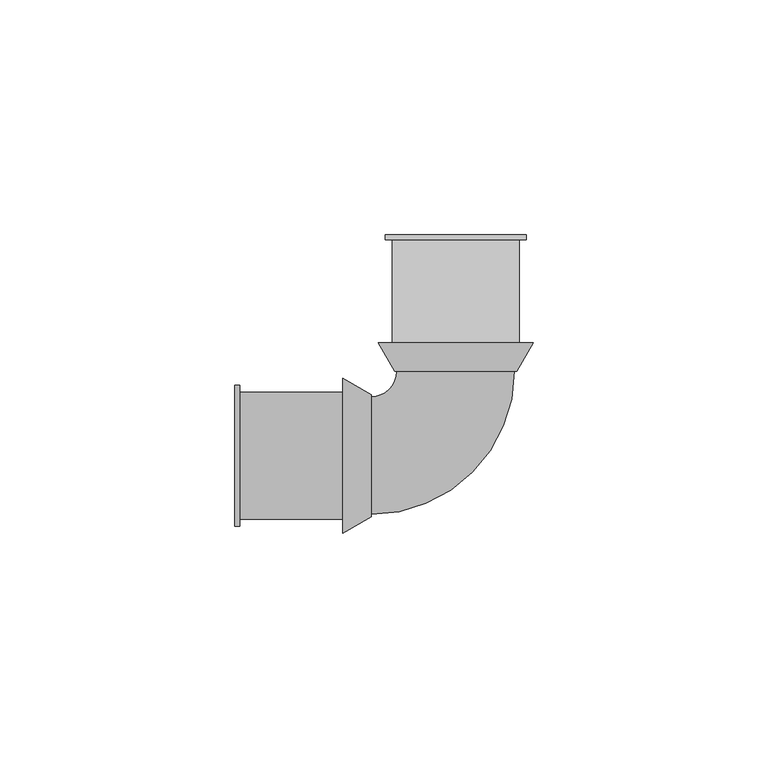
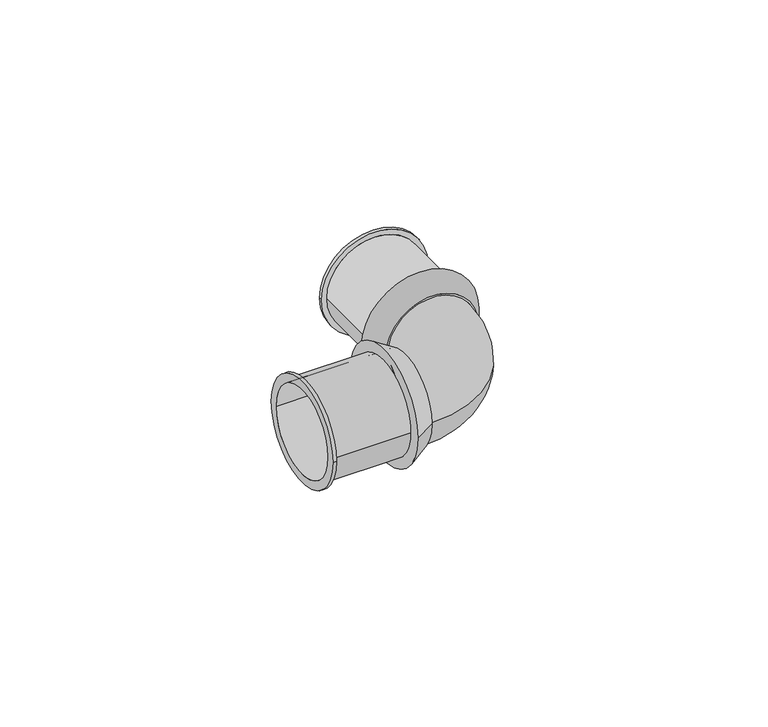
"""IFC4 building model written with IfcOpenShell, lengths in millimetres: pipe fitting geometry, SuperPipe_Elbow_SPressPlus : SuperPipe_Elbow_SPressPlus."""

from ifc_helpers import new_model, si_unit, point, frame, origin, place, context, project, spatial, polyline, circle_curve, ellipse_curve, trimmed, source, transform, mapped, element, save
from ifc_brep_helpers import plane_surface, cylinder_surface, revolved_surface, advanced_brep


def pipe_fitting_fdee5b0f(model_context):
    return source(origin(), model_context, "Body", "AdvancedBrep", [
        advanced_brep(
        [(-18.0, -13.0, 0.0), (-18.0, 13.0, 0.0), (-18.0, 12.5, 0.0), (-18.0, -12.5, 0.0), (-24.0, -16.5, 0.0), (-24.0, 16.5, 0.0), (-24.0, -12.5, 0.0), (-24.0, 12.5, 0.0)],
        [
            (0, 1, circle_curve(frame((-18.0, 0.0, 0.0), z_axis=(1.0, 0.0, 0.0), x_axis=(0.0, -1.0, 0.0)), 13.0)),
            (1, 0, circle_curve(frame((-18.0, 0.0, 0.0), z_axis=(1.0, 0.0, 0.0), x_axis=(0.0, 1.0, 0.0)), 13.0)),
            (2, 3, circle_curve(frame((-18.0, 0.0, 0.0), z_axis=(-1.0, 0.0, 0.0), x_axis=(0.0, 1.0, 0.0)), 12.5)),
            (3, 2, circle_curve(frame((-18.0, 0.0, 0.0), z_axis=(-1.0, 0.0, 0.0), x_axis=(0.0, 1.0, 0.0)), 12.5)),
            (4, 5, circle_curve(frame((-24.0, 0.0, 0.0), z_axis=(-1.0, 0.0, 0.0), x_axis=(0.0, 1.0, 0.0)), 16.5)),
            (5, 4, circle_curve(frame((-24.0, 0.0, 0.0), z_axis=(-1.0, 0.0, 0.0), x_axis=(0.0, -1.0, 0.0)), 16.5)),
            (6, 7, circle_curve(frame((-24.0, 0.0, 0.0), z_axis=(1.0, 0.0, 0.0), x_axis=(0.0, 1.0, 0.0)), 12.5)),
            (7, 6, circle_curve(frame((-24.0, 0.0, 0.0), z_axis=(1.0, 0.0, 0.0), x_axis=(0.0, 1.0, 0.0)), 12.5)),
            (0, 4),
            (5, 1),
            (2, 7),
            (6, 3),
        ],
        [
            plane_surface(frame((-18.0, 0.0, 0.0), z_axis=(1.0, 0.0, 0.0), x_axis=(0.0, 0.0, -1.0))),
            plane_surface(frame((-24.0, 0.0, 0.0), z_axis=(-1.0, 0.0, 0.0), x_axis=(0.0, 0.0, -1.0))),
            revolved_surface(polyline([(-18.0, -13.000000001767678, 0.0), (-24.0, -16.5, 0.0)]), (4.2857143, 0.0, 0.0), (-1.0, 0.0, 0.0)),
            revolved_surface(polyline([(-18.0, 13.000000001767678, 0.0), (-24.0, 16.5, 0.0)]), (4.2857143, 0.0, 0.0), (-1.0, 0.0, 0.0)),
            revolved_surface(polyline([(-18.0, 12.5, 0.0), (-24.0, 12.5, 0.0)]), (-24.0, 0.0, 0.0), (1.0, 0.0, 0.0)),
        ],
        [
            (0, [[1, 2], [3, 4]]),
            (1, [[5, 6], [7, 8]]),
            (2, [[-1, 9, -6, 10]]),
            (3, [[-2, -10, -5, -9]]),
            (4, [[11, -7, 12, -3]]),
            (4, [[-11, -4, -12, -8]]),
        ],
    ),
        advanced_brep(
        [(16.5, 24.0, 0.0), (-16.5, 24.0, 0.0), (12.5, 24.0, 0.0), (-12.5, 24.0, 0.0), (13.0, 18.0, 0.0), (-13.0, 18.0, 0.0), (-12.5, 18.0, 0.0), (12.5, 18.0, 0.0)],
        [
            (0, 1, circle_curve(frame((0.0, 24.0, 0.0), z_axis=(0.0, 1.0, 0.0), x_axis=(1.0, 0.0, 0.0)), 16.5)),
            (1, 0, circle_curve(frame((0.0, 24.0, 0.0), z_axis=(0.0, 1.0, 0.0), x_axis=(-1.0, 0.0, 0.0)), 16.5)),
            (2, 3, circle_curve(frame((0.0, 24.0, 0.0), z_axis=(0.0, -1.0, 0.0), x_axis=(-1.0, 0.0, 0.0)), 12.5)),
            (3, 2, circle_curve(frame((0.0, 24.0, 0.0), z_axis=(0.0, -1.0, 0.0), x_axis=(-1.0, 0.0, 0.0)), 12.5)),
            (4, 5, circle_curve(frame((0.0, 18.0, 0.0), z_axis=(0.0, -1.0, 0.0), x_axis=(-1.0, 0.0, 0.0)), 13.0)),
            (5, 4, circle_curve(frame((0.0, 18.0, 0.0), z_axis=(0.0, -1.0, 0.0), x_axis=(1.0, 0.0, 0.0)), 13.0)),
            (6, 7, circle_curve(frame((0.0, 18.0, 0.0), z_axis=(0.0, 1.0, 0.0), x_axis=(-1.0, 0.0, 0.0)), 12.5)),
            (7, 6, circle_curve(frame((0.0, 18.0, 0.0), z_axis=(0.0, 1.0, 0.0), x_axis=(-1.0, 0.0, 0.0)), 12.5)),
            (0, 4),
            (5, 1),
            (6, 3),
            (2, 7),
        ],
        [
            plane_surface(frame((0.0, 24.0, 0.0), z_axis=(0.0, 1.0, 0.0), x_axis=(0.0, 0.0, -1.0))),
            plane_surface(frame((0.0, 18.0, 0.0), z_axis=(0.0, -1.0, 0.0), x_axis=(0.0, 0.0, -1.0))),
            revolved_surface(polyline([(-13.000000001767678, 18.0, 0.0), (-16.5, 24.0, 0.0)]), (0.0, -4.2857143, 0.0), (0.0, 1.0, 0.0)),
            revolved_surface(polyline([(13.000000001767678, 18.0, 0.0), (16.5, 24.0, 0.0)]), (0.0, -4.2857143, 0.0), (0.0, 1.0, 0.0)),
            revolved_surface(polyline([(-12.5, 18.0, 0.0), (-12.5, 24.0, 0.0)]), (0.0, 18.0, 0.0), (0.0, -1.0, 0.0)),
        ],
        [
            (0, [[1, 2], [3, 4]]),
            (1, [[5, 6], [7, 8]]),
            (2, [[-1, 9, -6, 10]]),
            (3, [[-2, -10, -5, -9]]),
            (4, [[11, -3, 12, -7]]),
            (4, [[-11, -8, -12, -4]]),
        ],
    ),
        advanced_brep(
        [(-47.0, -15.0, 0.0), (-47.0, 15.0, 0.0), (-47.0, -12.5, 0.0), (-47.0, 12.5, 0.0), (-24.0, -13.5, 0.0), (-24.0, 13.5, 0.0), (-24.0, -12.5, 0.0), (-24.0, 12.5, 0.0), (-46.0, 13.5, 0.0), (-46.0, -13.5, 0.0), (-46.0, -15.0, 0.0), (-46.0, 15.0, 0.0)],
        [
            (0, 1, circle_curve(frame((-47.0, 0.0, 0.0), z_axis=(-1.0, 0.0, 0.0), x_axis=(0.0, 1.0, 0.0)), 15.0)),
            (1, 0, circle_curve(frame((-47.0, 0.0, 0.0), z_axis=(-1.0, 0.0, 0.0), x_axis=(0.0, 1.0, 0.0)), 15.0)),
            (2, 3, circle_curve(frame((-47.0, 0.0, 0.0), z_axis=(1.0, 0.0, 0.0), x_axis=(0.0, 1.0, 0.0)), 12.5)),
            (3, 2, circle_curve(frame((-47.0, 0.0, 0.0), z_axis=(1.0, 0.0, 0.0), x_axis=(0.0, 1.0, 0.0)), 12.5)),
            (4, 5, circle_curve(frame((-24.0, 0.0, 0.0), z_axis=(1.0, 0.0, 0.0), x_axis=(0.0, 1.0, 0.0)), 13.5)),
            (5, 4, circle_curve(frame((-24.0, 0.0, 0.0), z_axis=(1.0, 0.0, 0.0), x_axis=(0.0, 1.0, 0.0)), 13.5)),
            (6, 7, circle_curve(frame((-24.0, 0.0, 0.0), z_axis=(-1.0, 0.0, 0.0), x_axis=(0.0, 1.0, 0.0)), 12.5)),
            (7, 6, circle_curve(frame((-24.0, 0.0, 0.0), z_axis=(-1.0, 0.0, 0.0), x_axis=(0.0, 1.0, 0.0)), 12.5)),
            (2, 6),
            (7, 3),
            (5, 8),
            (8, 9, circle_curve(frame((-46.0, 0.0, 0.0), z_axis=(1.0, 0.0, 0.0), x_axis=(0.0, 1.0, 0.0)), 13.5)),
            (9, 4),
            (9, 8, circle_curve(frame((-46.0, 0.0, 0.0), z_axis=(1.0, 0.0, 0.0), x_axis=(0.0, 1.0, 0.0)), 13.5)),
            (10, 11, circle_curve(frame((-46.0, 0.0, 0.0), z_axis=(1.0, 0.0, 0.0), x_axis=(0.0, 1.0, 0.0)), 15.0)),
            (11, 10, circle_curve(frame((-46.0, 0.0, 0.0), z_axis=(1.0, 0.0, 0.0), x_axis=(0.0, 1.0, 0.0)), 15.0)),
            (0, 10),
            (11, 1),
        ],
        [
            plane_surface(frame((-47.0, 0.0, 0.0), z_axis=(-1.0, 0.0, 0.0), x_axis=(0.0, 0.0, 1.0))),
            plane_surface(frame((-24.0, 0.0, 0.0), z_axis=(1.0, 0.0, 0.0), x_axis=(0.0, 0.0, 1.0))),
            revolved_surface(polyline([(-24.0, 12.5, 0.0), (-47.0, 12.5, 0.0)]), (-47.0, 0.0, 0.0), (1.0, 0.0, 0.0)),
            cylinder_surface(frame((-47.0, 0.0, 0.0), z_axis=(-1.0, 0.0, 0.0), x_axis=(0.0, 1.0, 0.0)), 13.5),
            plane_surface(frame((-46.0, 0.0, 0.0), z_axis=(1.0, 0.0, 0.0), x_axis=(0.0, 0.0, 1.0))),
            cylinder_surface(frame((-47.0, 0.0, 0.0), z_axis=(-1.0, 0.0, 0.0), x_axis=(0.0, 1.0, 0.0)), 15.0),
        ],
        [
            (0, [[1, 2], [3, 4]]),
            (1, [[5, 6], [7, 8]]),
            (2, [[-3, 9, -8, 10]]),
            (2, [[-4, -10, -7, -9]]),
            (3, [[-6, 11, 12, 13]]),
            (3, [[-5, -13, 14, -11]]),
            (4, [[15, 16], [-12, -14]]),
            (5, [[-1, 17, -16, 18]]),
            (5, [[-2, -18, -15, -17]]),
        ],
    ),
        advanced_brep(
        [(13.5, 24.0, 0.0), (-13.5, 24.0, 0.0), (12.5, 24.0, 0.0), (-12.5, 24.0, 0.0), (15.0, 47.0, 0.0), (-15.0, 47.0, 0.0), (12.5, 47.0, 0.0), (-12.5, 47.0, 0.0), (13.5, 46.0, 0.0), (-13.5, 46.0, 0.0), (15.0, 46.0, 0.0), (-15.0, 46.0, 0.0)],
        [
            (0, 1, circle_curve(frame((0.0, 24.0, 0.0), z_axis=(0.0, -1.0, 0.0), x_axis=(-1.0, 0.0, 0.0)), 13.5)),
            (1, 0, circle_curve(frame((0.0, 24.0, 0.0), z_axis=(0.0, -1.0, 0.0), x_axis=(-1.0, 0.0, 0.0)), 13.5)),
            (2, 3, circle_curve(frame((0.0, 24.0, 0.0), z_axis=(0.0, 1.0, 0.0), x_axis=(-1.0, 0.0, 0.0)), 12.5)),
            (3, 2, circle_curve(frame((0.0, 24.0, 0.0), z_axis=(0.0, 1.0, 0.0), x_axis=(-1.0, 0.0, 0.0)), 12.5)),
            (4, 5, circle_curve(frame((0.0, 47.0, 0.0), z_axis=(0.0, 1.0, 0.0), x_axis=(-1.0, 0.0, 0.0)), 15.0)),
            (5, 4, circle_curve(frame((0.0, 47.0, 0.0), z_axis=(0.0, 1.0, 0.0), x_axis=(-1.0, 0.0, 0.0)), 15.0)),
            (6, 7, circle_curve(frame((0.0, 47.0, 0.0), z_axis=(0.0, -1.0, 0.0), x_axis=(-1.0, 0.0, 0.0)), 12.5)),
            (7, 6, circle_curve(frame((0.0, 47.0, 0.0), z_axis=(0.0, -1.0, 0.0), x_axis=(-1.0, 0.0, 0.0)), 12.5)),
            (0, 8),
            (8, 9, circle_curve(frame((0.0, 46.0, 0.0), z_axis=(0.0, -1.0, 0.0), x_axis=(-1.0, 0.0, 0.0)), 13.5)),
            (9, 1),
            (9, 8, circle_curve(frame((0.0, 46.0, 0.0), z_axis=(0.0, -1.0, 0.0), x_axis=(-1.0, 0.0, 0.0)), 13.5)),
            (2, 6),
            (7, 3),
            (10, 11, circle_curve(frame((0.0, 46.0, 0.0), z_axis=(0.0, -1.0, 0.0), x_axis=(-1.0, 0.0, 0.0)), 15.0)),
            (11, 10, circle_curve(frame((0.0, 46.0, 0.0), z_axis=(0.0, -1.0, 0.0), x_axis=(-1.0, 0.0, 0.0)), 15.0)),
            (11, 5),
            (4, 10),
        ],
        [
            plane_surface(frame((0.0, 24.0, 0.0), z_axis=(0.0, -1.0, 0.0), x_axis=(0.0, 0.0, 1.0))),
            plane_surface(frame((0.0, 47.0, 0.0), z_axis=(0.0, 1.0, 0.0), x_axis=(0.0, 0.0, 1.0))),
            cylinder_surface(frame((0.0, 24.0, 0.0), z_axis=(0.0, -1.0, 0.0), x_axis=(-1.0, 0.0, 0.0)), 13.5),
            revolved_surface(polyline([(-12.5, 47.0, 0.0), (-12.5, 24.0, 0.0)]), (0.0, 24.0, 0.0), (0.0, 1.0, 0.0)),
            plane_surface(frame((0.0, 46.0, 0.0), z_axis=(0.0, -1.0, 0.0), x_axis=(0.0, 0.0, 1.0))),
            cylinder_surface(frame((0.0, 46.0, 0.0), z_axis=(0.0, -1.0, 0.0), x_axis=(-1.0, 0.0, 0.0)), 15.0),
        ],
        [
            (0, [[1, 2], [3, 4]]),
            (1, [[5, 6], [7, 8]]),
            (2, [[-1, 9, 10, 11]]),
            (2, [[-2, -11, 12, -9]]),
            (3, [[-3, 13, -8, 14]]),
            (3, [[-4, -14, -7, -13]]),
            (4, [[15, 16], [-10, -12]]),
            (5, [[-16, 17, -5, 18]]),
            (5, [[-15, -18, -6, -17]]),
        ],
    ),
        advanced_brep(
        [(-18.0, -12.5, 0.0), (-18.0, 12.5, 0.0), (12.5, 18.0, 0.0), (-12.5, 18.0, 0.0)],
        [
            (0, 1, circle_curve(frame((-18.0, 0.0, 0.0), z_axis=(-1.0, 0.0, 0.0), x_axis=(0.0, 1.0, 0.0)), 12.5)),
            (1, 0, circle_curve(frame((-18.0, 0.0, 0.0), z_axis=(-1.0, 0.0, 0.0), x_axis=(0.0, 1.0, 0.0)), 12.5)),
            (2, 3, circle_curve(frame((0.0, 18.0, 0.0), z_axis=(0.0, 1.0, 0.0), x_axis=(-1.0, 0.0, 0.0)), 12.5)),
            (3, 2, circle_curve(frame((0.0, 18.0, 0.0), z_axis=(0.0, 1.0, 0.0), x_axis=(-1.0, 0.0, 0.0)), 12.5)),
            (3, 1, circle_curve(frame((-18.0, 18.0, 0.0), z_axis=(0.0, 0.0, -1.0), x_axis=(0.0, -1.0, 0.0)), 5.5)),
            (0, 2, circle_curve(frame((-18.0, 18.0, 0.0), z_axis=(0.0, 0.0, 1.0), x_axis=(0.0, -1.0, 0.0)), 30.5)),
        ],
        [
            plane_surface(frame((-18.0, 0.0, 0.0), z_axis=(-1.0, 0.0, 0.0), x_axis=(0.0, 0.0, 1.0))),
            plane_surface(frame((0.0, 18.0, 0.0), z_axis=(0.0, 1.0, 0.0), x_axis=(0.0, 0.0, 1.0))),
            revolved_surface(trimmed(ellipse_curve(frame((-18.0, 0.0, 0.0), z_axis=(-1.0, 0.0, 0.0), x_axis=(0.0, 1.0, 0.0)), 12.5, 12.5), [point((-18.0, -12.5, 0.0))], [point((-18.0, 12.5, 0.0))], True, "CARTESIAN"), (-18.0, 18.0, 0.0), (0.0, 0.0, 1.0)),
            revolved_surface(trimmed(ellipse_curve(frame((-18.0, 0.0, 0.0), z_axis=(-1.0, 0.0, 0.0), x_axis=(0.0, 1.0, 0.0)), 12.5, 12.5), [point((-18.0, 12.5, 0.0))], [point((-18.0, -12.5, 0.0))], True, "CARTESIAN"), (-18.0, 18.0, 0.0), (0.0, 0.0, 1.0)),
        ],
        [
            (0, [[1, 2]]),
            (1, [[3, 4]]),
            (2, [[5, -1, 6, -4]]),
            (3, [[-6, -2, -5, -3]]),
        ],
    ),
    ])


if __name__ == "__main__":
    model = new_model("IFC4")
    model_context = context("Model", 3, world=origin())
    ifc_project = project(units=[si_unit("LENGTHUNIT", "METRE", prefix="MILLI")], contexts=[model_context])
    site = spatial("IfcSite", under=ifc_project)
    building = spatial("IfcBuilding", under=site)
    placement = place(None, origin())
    pipe_fitting_shape = pipe_fitting_fdee5b0f(model_context)
    element("IfcPipeFitting", 1, ObjectType="SuperPipe_Elbow_SPressPlus : SuperPipe_Elbow_SPressPlus", at=placement, inside=building, context=model_context, shape_type="MappedRepresentation", body=[
        mapped(pipe_fitting_shape, transform((0.0, 0.0, 0.0), x_axis=(1.0, 0.0, 0.0), y_axis=(0.0, 1.0, 0.0), z_axis=(0.0, 0.0, 1.0))),
    ])
    save(model, "model.ifc")
